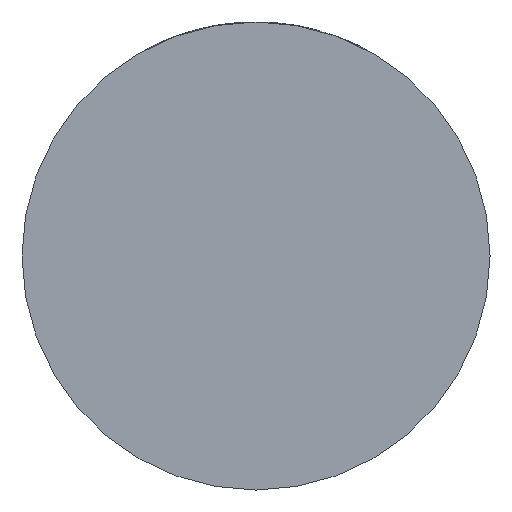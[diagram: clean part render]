
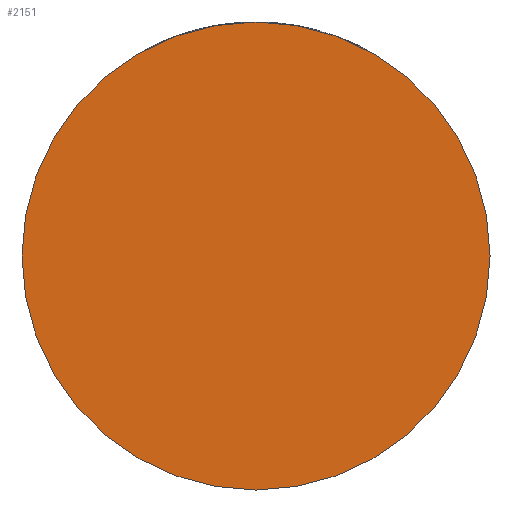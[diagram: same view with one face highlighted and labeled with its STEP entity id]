
A CAD part, front view. The second image highlights one B-rep face of the part: STEP entity #2151.
In plain terms, the highlighted planar face has unit normal (0, -1, 0).
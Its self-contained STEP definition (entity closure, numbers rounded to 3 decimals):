
#33 = ORIENTED_EDGE ( 'NONE', *, *, #3281, .T. ) ;
#138 = ORIENTED_EDGE ( 'NONE', *, *, #3905, .T. ) ;
#158 = VERTEX_POINT ( 'NONE', #4803 ) ;
#629 = DIRECTION ( 'NONE',  ( 1., 0., 0. ) ) ;
#955 = DIRECTION ( 'NONE',  ( 0., -1., 0. ) ) ;
#1170 = DIRECTION ( 'NONE',  ( 1., 0., 0. ) ) ;
#1487 = PLANE ( 'NONE',  #2596 ) ;
#1512 = FACE_OUTER_BOUND ( 'NONE', #1867, .T. ) ;
#1867 = EDGE_LOOP ( 'NONE', ( #33, #138 ) ) ;
#2151 = ADVANCED_FACE ( 'NONE', ( #1512 ), #1487, .T. ) ;
#2198 = CIRCLE ( 'NONE', #2273, 39. ) ;
#2273 = AXIS2_PLACEMENT_3D ( 'NONE', #3682, #955, #629 ) ;
#2337 = AXIS2_PLACEMENT_3D ( 'NONE', #3515, #3486, #1170 ) ;
#2346 = DIRECTION ( 'NONE',  ( 1., 0., 0. ) ) ;
#2596 = AXIS2_PLACEMENT_3D ( 'NONE', #2680, #4237, #2346 ) ;
#2680 = CARTESIAN_POINT ( 'NONE',  ( 0., -36., 0. ) ) ;
#2797 = VERTEX_POINT ( 'NONE', #3145 ) ;
#2834 = CIRCLE ( 'NONE', #2337, 39. ) ;
#3145 = CARTESIAN_POINT ( 'NONE',  ( -39., -36., 0. ) ) ;
#3281 = EDGE_CURVE ( 'NONE', #2797, #158, #2834, .T. ) ;
#3486 = DIRECTION ( 'NONE',  ( 0., -1., 0. ) ) ;
#3515 = CARTESIAN_POINT ( 'NONE',  ( 0., -36., 0. ) ) ;
#3682 = CARTESIAN_POINT ( 'NONE',  ( 0., -36., 0. ) ) ;
#3905 = EDGE_CURVE ( 'NONE', #158, #2797, #2198, .T. ) ;
#4237 = DIRECTION ( 'NONE',  ( 0., -1., 0. ) ) ;
#4803 = CARTESIAN_POINT ( 'NONE',  ( 39., -36., 0. ) ) ;
